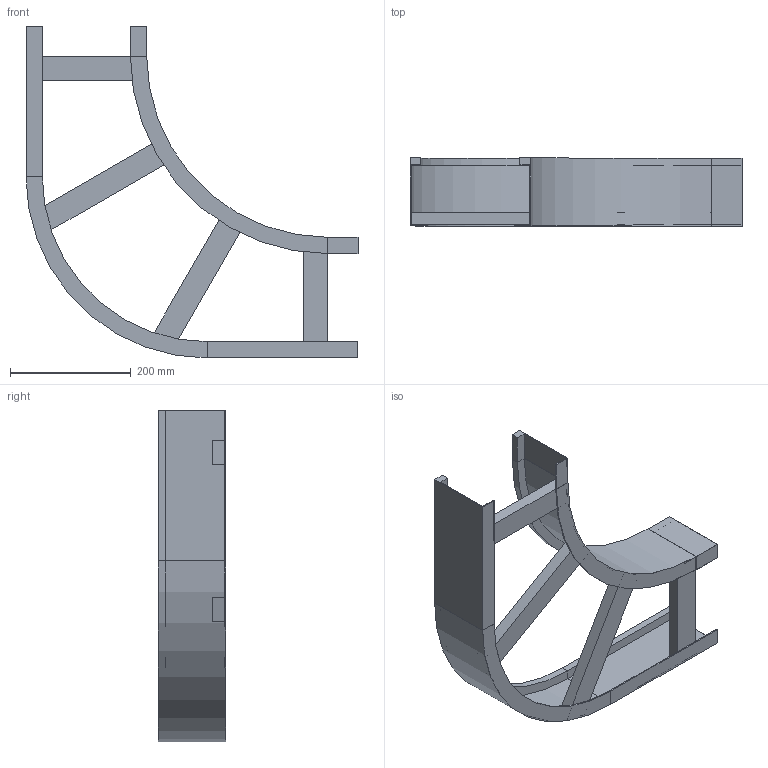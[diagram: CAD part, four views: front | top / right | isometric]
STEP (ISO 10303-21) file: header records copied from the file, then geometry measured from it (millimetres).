
FILE_DESCRIPTION (( 'STEP AP214' ), '1' );
FILE_NAME ('B2_10B3J200.step', '2025-02-21T15:25:06', ( '' ), ( '' ), 'SwSTEP 2.0', 'SolidWorks 2023', '' );
FILE_SCHEMA (( 'AUTOMOTIVE_DESIGN' ));
Length unit declared in the file: millimetre
Products named in the file (5): B2_LONGH.ESTERNO 90°_H112.5_R300+200; TRAVERSINO_200; B2_10B3J200; B2_LONGH.INTERNO 90°_H112.5_R300; TRAVERSINO_300_SCANTONATO
Assembly tree (6 placements, depth 2):
  B2_10B3J200
    B2_LONGH.INTERNO 90°_H112.5_R300
    B2_LONGH.ESTERNO 90°_H112.5_R300+200
    TRAVERSINO_200  x2
    TRAVERSINO_300_SCANTONATO  x2
Bounding box: 550 x 112.5 x 550 mm (x, y, z)
Volume: 1458652.1 mm3; surface area: 598403.7 mm2
Topology: 6 solids, 6 shells, 76 faces, 160 edges, 96 vertices
Faces by surface type: plane 68, cylinder 8
Entity records: 1830 total; most frequent: DIRECTION 298, CARTESIAN_POINT 289, ORIENTED_EDGE 272, EDGE_CURVE 136, VECTOR 120, LINE 120, AXIS2_PLACEMENT_3D 89, VERTEX_POINT 80
